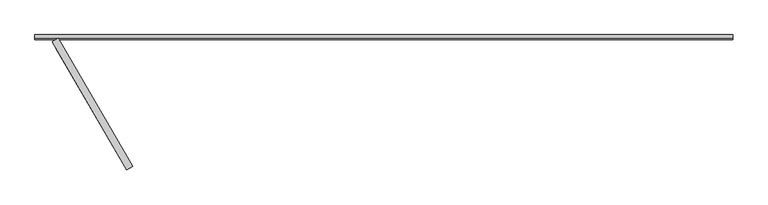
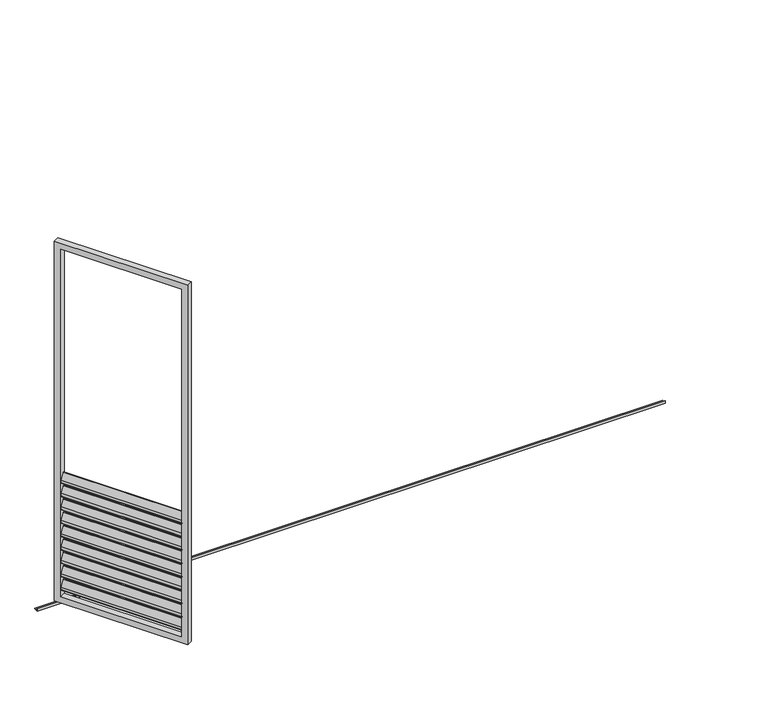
"""IFC4 building model written with IfcOpenShell, lengths in millimetres: proxy geometry, Renson_Amani_Loggia_Paro_Aluminium_Folding : Renson_Amani_Loggia_Paro_Aluminium_Folding."""

from ifc_helpers import new_model, si_unit, point, frame, frame_2d, origin, place, context, project, spatial, polyline, circle_curve, trimmed, segment, composite_curve, outline, extrude, source, transform, mapped, element, save


def generic_models_abf47c1b(model_context):
    return source(origin(), model_context, "Body", "SweptSolid", [
        extrude(outline(composite_curve([segment(polyline([(-44.0658831, 0.0), (0.8886405, 0.0), (17.0325667, -10.4839883)]), True, "CONTINUOUS"), segment(trimmed(circle_curve(frame_2d((15.3986496, -13.0)), 3.0), [point((17.0325667, -10.4839883))], [point((15.3986496, -16.0))], False, "CARTESIAN"), True, "CONTINUOUS"), segment(polyline([(15.3986496, -16.0), (-28.6672334, -16.0)]), True, "CONTINUOUS"), segment(trimmed(circle_curve(frame_2d((-28.6672334, -13.0)), 3.0), [point((-28.6672334, -16.0))], [point((-30.3011505, -15.5160117))], False, "CARTESIAN"), True, "CONTINUOUS"), segment(polyline([(-30.3011505, -15.5160117), (-45.6998002, -5.5160117)]), True, "CONTINUOUS"), segment(trimmed(circle_curve(frame_2d((-44.0658831, -3.0)), 3.0), [point((-45.6998002, -5.5160117))], [point((-44.0658831, 0.0))], False, "CARTESIAN"), True, "CONTINUOUS")], self_intersect=False)), frame((410.3274249, 37.7168064, 867.3359298), z_axis=(-0.5000000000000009, 0.8660254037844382, 0.0), x_axis=(-0.47167124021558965, -0.27231951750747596, -0.8386705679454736)), (0.0, 0.0, 1.0), 770.0),
        extrude(outline(composite_curve([segment(polyline([(-44.0658831, 0.0), (0.8886405, 0.0), (17.0325667, -10.4839883)]), True, "CONTINUOUS"), segment(trimmed(circle_curve(frame_2d((15.3986496, -13.0)), 3.0), [point((17.0325667, -10.4839883))], [point((15.3986496, -16.0))], False, "CARTESIAN"), True, "CONTINUOUS"), segment(polyline([(15.3986496, -16.0), (-28.6672334, -16.0)]), True, "CONTINUOUS"), segment(trimmed(circle_curve(frame_2d((-28.6672334, -13.0)), 3.0), [point((-28.6672334, -16.0))], [point((-30.3011505, -15.5160117))], False, "CARTESIAN"), True, "CONTINUOUS"), segment(polyline([(-30.3011505, -15.5160117), (-45.6998002, -5.5160117)]), True, "CONTINUOUS"), segment(trimmed(circle_curve(frame_2d((-44.0658831, -3.0)), 3.0), [point((-45.6998002, -5.5160117))], [point((-44.0658831, 0.0))], False, "CARTESIAN"), True, "CONTINUOUS")], self_intersect=False)), frame((410.3274249, 37.7168064, 777.3359298), z_axis=(-0.5000000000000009, 0.8660254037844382, 0.0), x_axis=(-0.47167124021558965, -0.27231951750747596, -0.8386705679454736)), (0.0, 0.0, 1.0), 770.0),
        extrude(outline(composite_curve([segment(polyline([(-44.0658831, 0.0), (0.8886405, 0.0), (17.0325667, -10.4839883)]), True, "CONTINUOUS"), segment(trimmed(circle_curve(frame_2d((15.3986496, -13.0)), 3.0), [point((17.0325667, -10.4839883))], [point((15.3986496, -16.0))], False, "CARTESIAN"), True, "CONTINUOUS"), segment(polyline([(15.3986496, -16.0), (-28.6672334, -16.0)]), True, "CONTINUOUS"), segment(trimmed(circle_curve(frame_2d((-28.6672334, -13.0)), 3.0), [point((-28.6672334, -16.0))], [point((-30.3011505, -15.5160117))], False, "CARTESIAN"), True, "CONTINUOUS"), segment(polyline([(-30.3011505, -15.5160117), (-45.6998002, -5.5160117)]), True, "CONTINUOUS"), segment(trimmed(circle_curve(frame_2d((-44.0658831, -3.0)), 3.0), [point((-45.6998002, -5.5160117))], [point((-44.0658831, 0.0))], False, "CARTESIAN"), True, "CONTINUOUS")], self_intersect=False)), frame((410.3274249, 37.7168064, 687.3359298), z_axis=(-0.5000000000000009, 0.8660254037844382, 0.0), x_axis=(-0.47167124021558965, -0.27231951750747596, -0.8386705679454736)), (0.0, 0.0, 1.0), 770.0),
        extrude(outline(composite_curve([segment(polyline([(-44.0658831, 0.0), (0.8886405, 0.0), (17.0325667, -10.4839883)]), True, "CONTINUOUS"), segment(trimmed(circle_curve(frame_2d((15.3986496, -13.0)), 3.0), [point((17.0325667, -10.4839883))], [point((15.3986496, -16.0))], False, "CARTESIAN"), True, "CONTINUOUS"), segment(polyline([(15.3986496, -16.0), (-28.6672334, -16.0)]), True, "CONTINUOUS"), segment(trimmed(circle_curve(frame_2d((-28.6672334, -13.0)), 3.0), [point((-28.6672334, -16.0))], [point((-30.3011505, -15.5160117))], False, "CARTESIAN"), True, "CONTINUOUS"), segment(polyline([(-30.3011505, -15.5160117), (-45.6998002, -5.5160117)]), True, "CONTINUOUS"), segment(trimmed(circle_curve(frame_2d((-44.0658831, -3.0)), 3.0), [point((-45.6998002, -5.5160117))], [point((-44.0658831, 0.0))], False, "CARTESIAN"), True, "CONTINUOUS")], self_intersect=False)), frame((410.3274249, 37.7168064, 597.3359298), z_axis=(-0.5000000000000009, 0.8660254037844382, 0.0), x_axis=(-0.47167124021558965, -0.27231951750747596, -0.8386705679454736)), (0.0, 0.0, 1.0), 770.0),
        extrude(outline(composite_curve([segment(polyline([(-44.0658831, 0.0), (0.8886405, 0.0), (17.0325667, -10.4839883)]), True, "CONTINUOUS"), segment(trimmed(circle_curve(frame_2d((15.3986496, -13.0)), 3.0), [point((17.0325667, -10.4839883))], [point((15.3986496, -16.0))], False, "CARTESIAN"), True, "CONTINUOUS"), segment(polyline([(15.3986496, -16.0), (-28.6672334, -16.0)]), True, "CONTINUOUS"), segment(trimmed(circle_curve(frame_2d((-28.6672334, -13.0)), 3.0), [point((-28.6672334, -16.0))], [point((-30.3011505, -15.5160117))], False, "CARTESIAN"), True, "CONTINUOUS"), segment(polyline([(-30.3011505, -15.5160117), (-45.6998002, -5.5160117)]), True, "CONTINUOUS"), segment(trimmed(circle_curve(frame_2d((-44.0658831, -3.0)), 3.0), [point((-45.6998002, -5.5160117))], [point((-44.0658831, 0.0))], False, "CARTESIAN"), True, "CONTINUOUS")], self_intersect=False)), frame((410.3274249, 37.7168064, 507.3359298), z_axis=(-0.5000000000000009, 0.8660254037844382, 0.0), x_axis=(-0.47167124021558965, -0.27231951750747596, -0.8386705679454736)), (0.0, 0.0, 1.0), 770.0),
        extrude(outline(composite_curve([segment(polyline([(-44.0658831, 0.0), (0.8886405, 0.0), (17.0325667, -10.4839883)]), True, "CONTINUOUS"), segment(trimmed(circle_curve(frame_2d((15.3986496, -13.0)), 3.0), [point((17.0325667, -10.4839883))], [point((15.3986496, -16.0))], False, "CARTESIAN"), True, "CONTINUOUS"), segment(polyline([(15.3986496, -16.0), (-28.6672334, -16.0)]), True, "CONTINUOUS"), segment(trimmed(circle_curve(frame_2d((-28.6672334, -13.0)), 3.0), [point((-28.6672334, -16.0))], [point((-30.3011505, -15.5160117))], False, "CARTESIAN"), True, "CONTINUOUS"), segment(polyline([(-30.3011505, -15.5160117), (-45.6998002, -5.5160117)]), True, "CONTINUOUS"), segment(trimmed(circle_curve(frame_2d((-44.0658831, -3.0)), 3.0), [point((-45.6998002, -5.5160117))], [point((-44.0658831, 0.0))], False, "CARTESIAN"), True, "CONTINUOUS")], self_intersect=False)), frame((410.3274249, 37.7168064, 417.3359298), z_axis=(-0.5000000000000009, 0.8660254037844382, 0.0), x_axis=(-0.47167124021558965, -0.27231951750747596, -0.8386705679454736)), (0.0, 0.0, 1.0), 770.0),
        extrude(outline(composite_curve([segment(polyline([(-44.0658831, 0.0), (0.8886405, 0.0), (17.0325667, -10.4839883)]), True, "CONTINUOUS"), segment(trimmed(circle_curve(frame_2d((15.3986496, -13.0)), 3.0), [point((17.0325667, -10.4839883))], [point((15.3986496, -16.0))], False, "CARTESIAN"), True, "CONTINUOUS"), segment(polyline([(15.3986496, -16.0), (-28.6672334, -16.0)]), True, "CONTINUOUS"), segment(trimmed(circle_curve(frame_2d((-28.6672334, -13.0)), 3.0), [point((-28.6672334, -16.0))], [point((-30.3011505, -15.5160117))], False, "CARTESIAN"), True, "CONTINUOUS"), segment(polyline([(-30.3011505, -15.5160117), (-45.6998002, -5.5160117)]), True, "CONTINUOUS"), segment(trimmed(circle_curve(frame_2d((-44.0658831, -3.0)), 3.0), [point((-45.6998002, -5.5160117))], [point((-44.0658831, 0.0))], False, "CARTESIAN"), True, "CONTINUOUS")], self_intersect=False)), frame((410.3274249, 37.7168064, 327.3359298), z_axis=(-0.5000000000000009, 0.8660254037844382, 0.0), x_axis=(-0.47167124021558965, -0.27231951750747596, -0.8386705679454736)), (0.0, 0.0, 1.0), 770.0),
        extrude(outline(composite_curve([segment(polyline([(-44.0658831, 0.0), (0.8886405, 0.0), (17.0325667, -10.4839883)]), True, "CONTINUOUS"), segment(trimmed(circle_curve(frame_2d((15.3986496, -13.0)), 3.0), [point((17.0325667, -10.4839883))], [point((15.3986496, -16.0))], False, "CARTESIAN"), True, "CONTINUOUS"), segment(polyline([(15.3986496, -16.0), (-28.6672334, -16.0)]), True, "CONTINUOUS"), segment(trimmed(circle_curve(frame_2d((-28.6672334, -13.0)), 3.0), [point((-28.6672334, -16.0))], [point((-30.3011505, -15.5160117))], False, "CARTESIAN"), True, "CONTINUOUS"), segment(polyline([(-30.3011505, -15.5160117), (-45.6998002, -5.5160117)]), True, "CONTINUOUS"), segment(trimmed(circle_curve(frame_2d((-44.0658831, -3.0)), 3.0), [point((-45.6998002, -5.5160117))], [point((-44.0658831, 0.0))], False, "CARTESIAN"), True, "CONTINUOUS")], self_intersect=False)), frame((410.3274249, 37.7168064, 237.3359298), z_axis=(-0.5000000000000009, 0.8660254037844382, 0.0), x_axis=(-0.47167124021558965, -0.27231951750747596, -0.8386705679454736)), (0.0, 0.0, 1.0), 770.0),
        extrude(outline(composite_curve([segment(polyline([(-44.0658831, 0.0), (0.8886405, 0.0), (17.0325667, -10.4839883)]), True, "CONTINUOUS"), segment(trimmed(circle_curve(frame_2d((15.3986496, -13.0)), 3.0), [point((17.0325667, -10.4839883))], [point((15.3986496, -16.0))], False, "CARTESIAN"), True, "CONTINUOUS"), segment(polyline([(15.3986496, -16.0), (-28.6672334, -16.0)]), True, "CONTINUOUS"), segment(trimmed(circle_curve(frame_2d((-28.6672334, -13.0)), 3.0), [point((-28.6672334, -16.0))], [point((-30.3011505, -15.5160117))], False, "CARTESIAN"), True, "CONTINUOUS"), segment(polyline([(-30.3011505, -15.5160117), (-45.6998002, -5.5160117)]), True, "CONTINUOUS"), segment(trimmed(circle_curve(frame_2d((-44.0658831, -3.0)), 3.0), [point((-45.6998002, -5.5160117))], [point((-44.0658831, 0.0))], False, "CARTESIAN"), True, "CONTINUOUS")], self_intersect=False)), frame((410.3274249, 37.7168064, 147.3359298), z_axis=(-0.5000000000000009, 0.8660254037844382, 0.0), x_axis=(-0.47167124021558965, -0.27231951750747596, -0.8386705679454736)), (0.0, 0.0, 1.0), 770.0),
        extrude(outline(polyline([(2380.0, -40.0), (-40.0, -40.0), (-40.0, 810.0), (2380.0, 810.0), (2380.0, -40.0)]), holes=[polyline([(2340.0, 770.0), (0.0, 770.0), (0.0, 0.0), (2340.0, 0.0), (2340.0, 770.0)])]), frame((20.0, 701.4805771, 85.0), z_axis=(0.8660254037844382, 0.5000000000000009, 0.0), x_axis=(0.0, 0.0, 1.0)), (0.0, 0.0, 1.0), 40.0),
        extrude(outline(polyline([(750.1215932, 15.0), (753.1215932, 15.0), (753.1215932, 3.0), (776.1215932, 3.0), (776.1215932, 0.0), (750.1215932, 0.0), (750.1215932, 15.0)])), frame((-100.0, 0.0, 0.0), z_axis=(1.0, 0.0, 0.0), x_axis=(0.0, 1.0, 0.0)), (0.0, 0.0, 1.0), 4000.0),
    ])


if __name__ == "__main__":
    model = new_model("IFC4")
    model_context = context("Model", 3, world=origin())
    ifc_project = project(units=[si_unit("LENGTHUNIT", "METRE", prefix="MILLI")], contexts=[model_context])
    site = spatial("IfcSite", under=ifc_project)
    building = spatial("IfcBuilding", under=site)
    placement = place(None, origin())
    generic_models_shape = generic_models_abf47c1b(model_context)
    element("IfcBuildingElementProxy", 1, Name="Renson_Amani_Loggia_Paro_Aluminium_Folding : Renson_Amani_Loggia_Paro_Aluminium_Folding", ObjectType="Renson_Amani_Loggia_Paro_Aluminium_Folding : Renson_Amani_Loggia_Paro_Aluminium_Folding", at=placement, inside=building, context=model_context, shape_type="MappedRepresentation", body=[
        mapped(generic_models_shape, transform((0.0, 0.0, 0.0), x_axis=(1.0, 0.0, 0.0), y_axis=(0.0, 1.0, 0.0), z_axis=(0.0, 0.0, 1.0))),
    ])
    save(model, "model.ifc")
